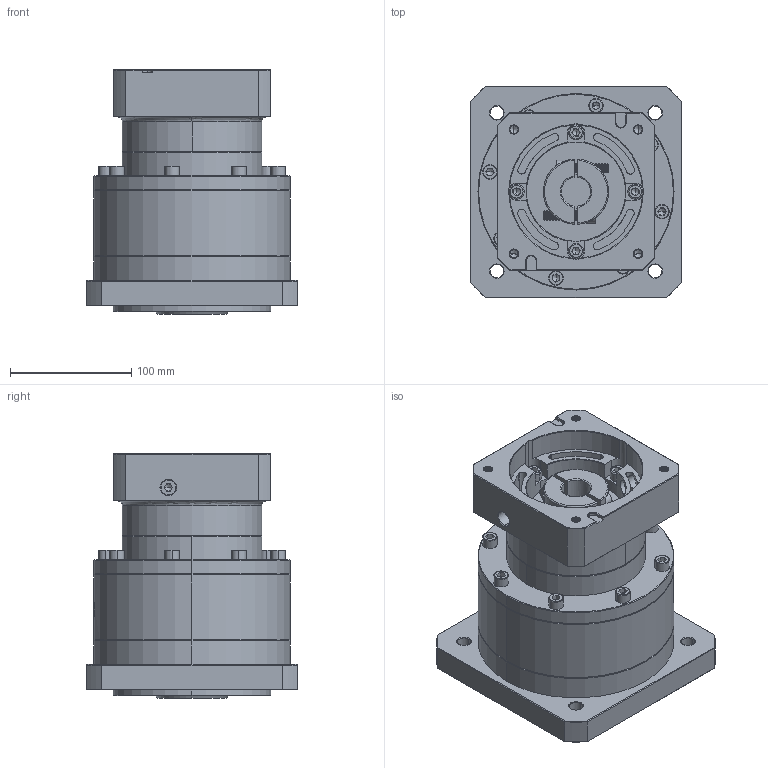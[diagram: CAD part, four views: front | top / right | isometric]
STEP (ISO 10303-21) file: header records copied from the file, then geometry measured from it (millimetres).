
FILE_DESCRIPTION (( 'STEP AP214' ), '1' );
FILE_NAME ('ZF160A-K35-L2-P2-24-110-145-M8.step', '2023-09-03T07:58:10', ( '' ), ( '' ), 'SwSTEP 2.0', 'SolidWorks 2016', '' );
FILE_SCHEMA (( 'AUTOMOTIVE_DESIGN' ));
Length unit declared in the file: millimetre
Products named in the file (1): ZF160A-K35-L2-P2-24-110-145-M8
Bounding box: 175 x 175 x 202.2 mm (x, y, z)
Volume: 3219948.7 mm3; surface area: 271349.6 mm2
Topology: 6 solids, 6 shells, 2426 faces, 6427 edges, 4121 vertices
Faces by surface type: plane 1138, cylinder 477, bspline 400, cone 355, torus 56
Entity records: 128661 total; most frequent: CARTESIAN_POINT 46827, ORIENTED_EDGE 12750, DIRECTION 9763, EDGE_CURVE 6375, VERTEX_POINT 4121, LINE 3395, VECTOR 3395, AXIS2_PLACEMENT_3D 3184
